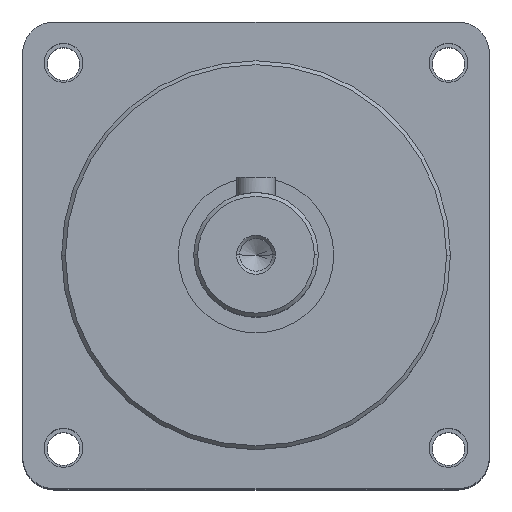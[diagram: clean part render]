
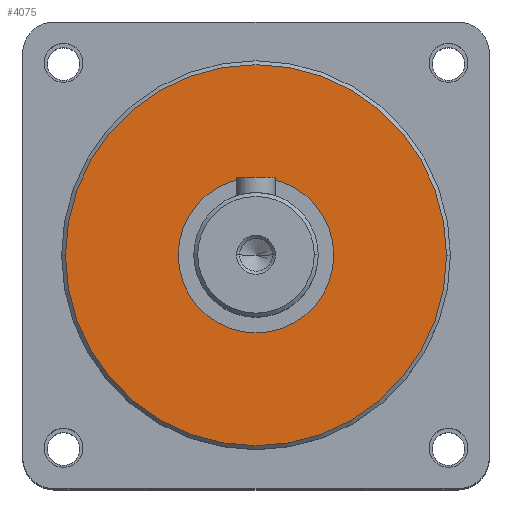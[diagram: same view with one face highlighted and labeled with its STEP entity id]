
A CAD part, top view. The second image highlights one B-rep face of the part: STEP entity #4075.
In plain terms, the highlighted planar face has unit normal (0, 0, 1).
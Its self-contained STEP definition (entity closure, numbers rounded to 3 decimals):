
#358 = EDGE_CURVE ( 'NONE', #3219, #3220, #1319, .T. ) ;
#368 = EDGE_CURVE ( 'NONE', #3220, #3219, #1330, .T. ) ;
#788 = AXIS2_PLACEMENT_3D ( 'NONE', #2954, #2955, #2956 ) ;
#793 = AXIS2_PLACEMENT_3D ( 'NONE', #2975, #2976, #2977 ) ;
#1102 = AXIS2_PLACEMENT_3D ( 'NONE', #2698, #2699, #2700 ) ;
#1319 = CIRCLE ( 'NONE', #788, 24.5 ) ;
#1330 = CIRCLE ( 'NONE', #793, 24.5 ) ;
#1962 = FACE_OUTER_BOUND ( 'NONE', #4129, .T. ) ;
#2560 = CARTESIAN_POINT ( 'NONE',  ( 24.5, 0., 109.5 ) ) ;
#2561 = CARTESIAN_POINT ( 'NONE',  ( -24.5, 0., 109.5 ) ) ;
#2697 = PLANE ( 'NONE',  #1102 ) ;
#2698 = CARTESIAN_POINT ( 'NONE',  ( 0., 0., 109.5 ) ) ;
#2699 = DIRECTION ( 'NONE',  ( 0., 0., 1. ) ) ;
#2700 = DIRECTION ( 'NONE',  ( 1., 0., 0. ) ) ;
#2954 = CARTESIAN_POINT ( 'NONE',  ( 0., 0., 109.5 ) ) ;
#2955 = DIRECTION ( 'NONE',  ( 0., 0., 1. ) ) ;
#2956 = DIRECTION ( 'NONE',  ( 1., 0., 0. ) ) ;
#2975 = CARTESIAN_POINT ( 'NONE',  ( 0., 0., 109.5 ) ) ;
#2976 = DIRECTION ( 'NONE',  ( 0., 0., 1. ) ) ;
#2977 = DIRECTION ( 'NONE',  ( 1., 0., 0. ) ) ;
#3219 = VERTEX_POINT ( 'NONE', #2560 ) ;
#3220 = VERTEX_POINT ( 'NONE', #2561 ) ;
#4075 = ADVANCED_FACE ( 'NONE', ( #1962 ), #2697, .T. ) ;
#4129 = EDGE_LOOP ( 'NONE', ( #4722, #4723 ) ) ;
#4722 = ORIENTED_EDGE ( 'NONE', *, *, #368, .T. ) ;
#4723 = ORIENTED_EDGE ( 'NONE', *, *, #358, .T. ) ;
